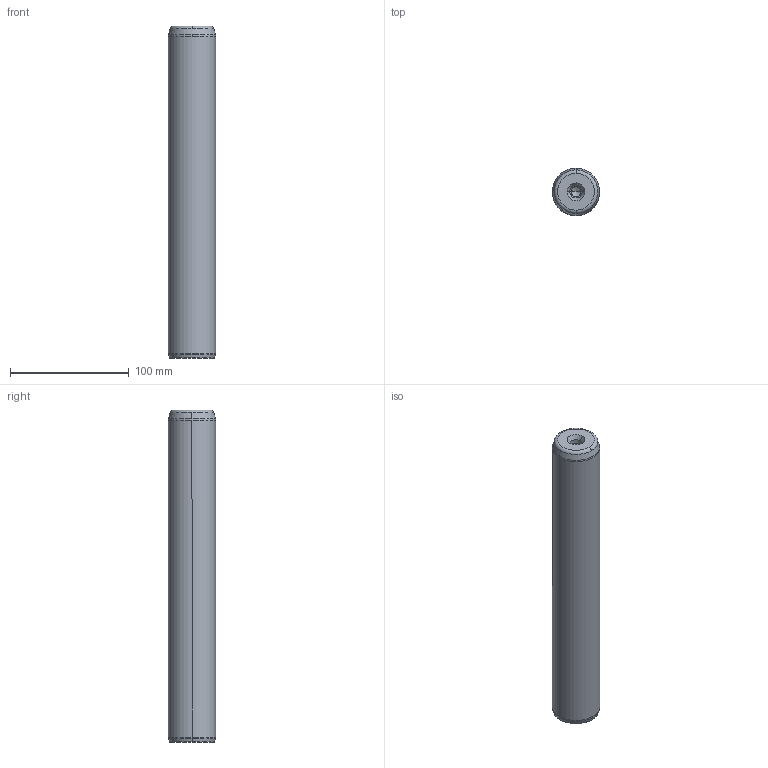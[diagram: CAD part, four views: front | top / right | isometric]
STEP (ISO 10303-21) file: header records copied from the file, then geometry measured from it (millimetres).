
FILE_DESCRIPTION((''),'2;1');
FILE_NAME('P10_040_280.stp','2008-12-23T15:24:53',(''),(''),'Mechanical Desktop 2009','Mechanical Desktop 2009',', , ');
FILE_SCHEMA(('CONFIG_CONTROL_DESIGN'));
Length unit declared in the file: millimetre
Products named in the file (5): Product; ProductAA; blmdl1; ProductA; blmdl1A
Assembly tree (2 placements, depth 3):
  Product
    ProductAA
      blmdl1
  ProductA
  blmdl1A
Bounding box: 40 x 40 x 280 mm (x, y, z)
Volume: 348354.3 mm3; surface area: 38029.6 mm2
Topology: 1 solids, 1 shells, 26 faces, 66 edges, 41 vertices
Faces by surface type: cone 10, torus 8, cylinder 6, plane 2
Entity records: 1012 total; most frequent: DIRECTION 170, CARTESIAN_POINT 134, ORIENTED_EDGE 128, AXIS2_PLACEMENT_3D 77, EDGE_CURVE 64, CIRCLE 48, VERTEX_POINT 41, EDGE_LOOP 27
